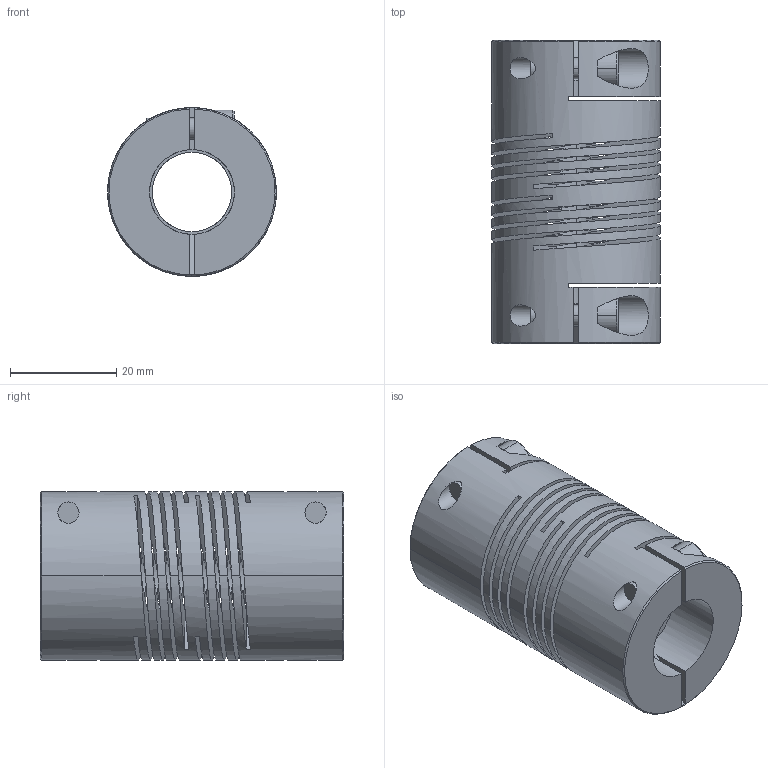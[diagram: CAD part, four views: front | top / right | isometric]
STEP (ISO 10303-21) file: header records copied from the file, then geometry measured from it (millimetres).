
FILE_DESCRIPTION((''),'2;1');
FILE_NAME('707_32','2006-12-06T',('Gary Melling'),(''),'PRO/ENGINEER BY PARAMETRIC TECHNOLOGY CORPORATION, 2006240','PRO/ENGINEER BY PARAMETRIC TECHNOLOGY CORPORATION, 2006240','');
FILE_SCHEMA(('CONFIG_CONTROL_DESIGN'));
Length unit declared in the file: millimetre
Products named in the file (1): 707_32
Bounding box: 31.8 x 57.2 x 31.8 mm (x, y, z)
Volume: 29453.8 mm3; surface area: 21009.2 mm2
Topology: 1 solids, 1 shells, 120 faces, 356 edges, 232 vertices
Faces by surface type: plane 58, cylinder 44, bspline 12, cone 6
Entity records: 6223 total; most frequent: CARTESIAN_POINT 3115, ORIENTED_EDGE 712, DIRECTION 538, EDGE_CURVE 356, VERTEX_POINT 232, VECTOR 190, LINE 190, AXIS2_PLACEMENT_3D 174
